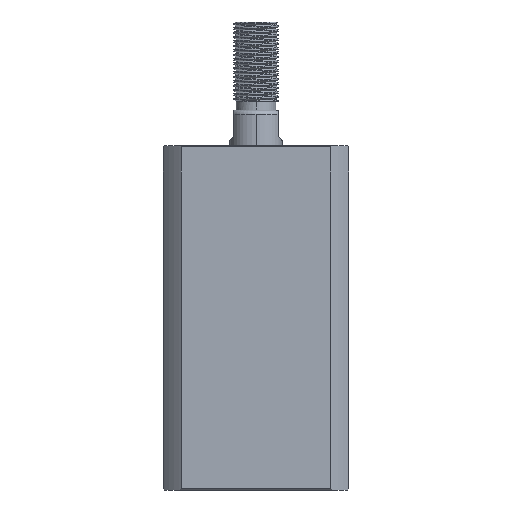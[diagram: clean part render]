
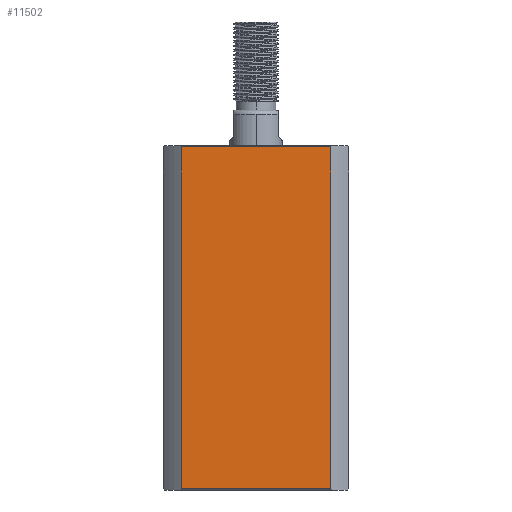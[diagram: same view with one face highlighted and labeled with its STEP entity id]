
A CAD part, left-side view. The second image highlights one B-rep face of the part: STEP entity #11502.
In plain terms, the highlighted planar face has unit normal (-1, 0, 0).
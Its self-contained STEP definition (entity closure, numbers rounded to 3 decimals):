
#589 = DIRECTION ( 'NONE',  ( 0., 1., 0. ) ) ;
#724 = CARTESIAN_POINT ( 'NONE',  ( -21., 21., 0.3 ) ) ;
#1141 = EDGE_CURVE ( 'NONE', #12415, #9088, #8539, .T. ) ;
#1888 = FACE_OUTER_BOUND ( 'NONE', #8847, .T. ) ;
#2315 = CARTESIAN_POINT ( 'NONE',  ( -21., -16.971, 77.7 ) ) ;
#2544 = CARTESIAN_POINT ( 'NONE',  ( -21., 16.971, -222. ) ) ;
#2631 = ORIENTED_EDGE ( 'NONE', *, *, #1141, .F. ) ;
#2838 = LINE ( 'NONE', #4573, #5912 ) ;
#3519 = ORIENTED_EDGE ( 'NONE', *, *, #8856, .T. ) ;
#4573 = CARTESIAN_POINT ( 'NONE',  ( -21., 21., 77.7 ) ) ;
#5095 = VECTOR ( 'NONE', #8338, 1000. ) ;
#5128 = CARTESIAN_POINT ( 'NONE',  ( -21., -16.971, 0.3 ) ) ;
#5402 = DIRECTION ( 'NONE',  ( 0., -1., 0. ) ) ;
#5912 = VECTOR ( 'NONE', #12649, 1000. ) ;
#6004 = CARTESIAN_POINT ( 'NONE',  ( -21., -16.971, -222. ) ) ;
#6345 = VERTEX_POINT ( 'NONE', #5128 ) ;
#6365 = CARTESIAN_POINT ( 'NONE',  ( -21., 21., 78. ) ) ;
#6420 = LINE ( 'NONE', #6004, #9157 ) ;
#6502 = ORIENTED_EDGE ( 'NONE', *, *, #6927, .F. ) ;
#6927 = EDGE_CURVE ( 'NONE', #10403, #6345, #6420, .T. ) ;
#7550 = DIRECTION ( 'NONE',  ( 1., 0., 0. ) ) ;
#8338 = DIRECTION ( 'NONE',  ( 0., 0., 1. ) ) ;
#8539 = LINE ( 'NONE', #2544, #5095 ) ;
#8697 = ORIENTED_EDGE ( 'NONE', *, *, #9815, .T. ) ;
#8847 = EDGE_LOOP ( 'NONE', ( #2631, #8697, #6502, #3519 ) ) ;
#8856 = EDGE_CURVE ( 'NONE', #10403, #9088, #2838, .T. ) ;
#9088 = VERTEX_POINT ( 'NONE', #14101 ) ;
#9157 = VECTOR ( 'NONE', #14060, 1000. ) ;
#9343 = VECTOR ( 'NONE', #5402, 1000. ) ;
#9691 = LINE ( 'NONE', #724, #9343 ) ;
#9815 = EDGE_CURVE ( 'NONE', #12415, #6345, #9691, .T. ) ;
#10403 = VERTEX_POINT ( 'NONE', #2315 ) ;
#11502 = ADVANCED_FACE ( 'NONE', ( #1888 ), #12117, .F. ) ;
#12117 = PLANE ( 'NONE',  #12925 ) ;
#12415 = VERTEX_POINT ( 'NONE', #14131 ) ;
#12649 = DIRECTION ( 'NONE',  ( 0., 1., 0. ) ) ;
#12925 = AXIS2_PLACEMENT_3D ( 'NONE', #6365, #7550, #589 ) ;
#14060 = DIRECTION ( 'NONE',  ( 0., 0., -1. ) ) ;
#14101 = CARTESIAN_POINT ( 'NONE',  ( -21., 16.971, 77.7 ) ) ;
#14131 = CARTESIAN_POINT ( 'NONE',  ( -21., 16.971, 0.3 ) ) ;
